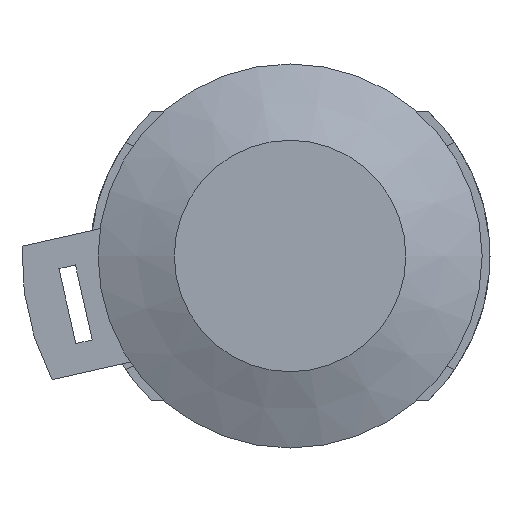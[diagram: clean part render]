
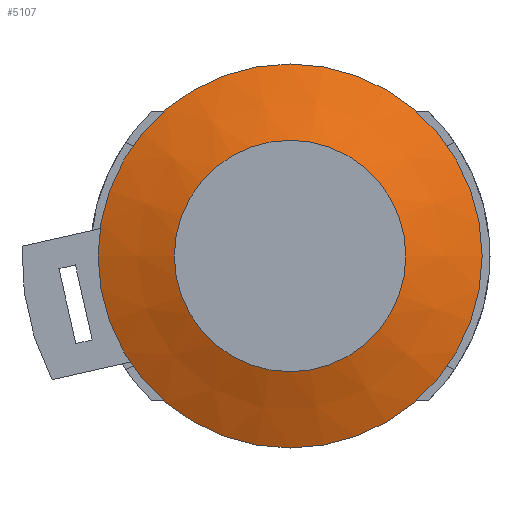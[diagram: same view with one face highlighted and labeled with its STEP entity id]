
A CAD part, left-side view. The second image highlights one B-rep face of the part: STEP entity #5107.
In plain terms, the highlighted conical face has half-angle 67.521 degrees and reference radius 18.25 mm.
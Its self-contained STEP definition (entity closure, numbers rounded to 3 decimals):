
#184 = AXIS2_PLACEMENT_3D ( 'NONE', #850, #859, #860 ) ;
#187 = AXIS2_PLACEMENT_3D ( 'NONE', #861, #869, #870 ) ;
#850 = CARTESIAN_POINT ( 'NONE',  ( -12.5, 0., 0. ) ) ;
#859 = DIRECTION ( 'NONE',  ( 1., 0., 0. ) ) ;
#860 = DIRECTION ( 'NONE',  ( 0., 1., 0. ) ) ;
#861 = CARTESIAN_POINT ( 'NONE',  ( -9.5, 0., 0. ) ) ;
#869 = DIRECTION ( 'NONE',  ( 1., 0., 0. ) ) ;
#870 = DIRECTION ( 'NONE',  ( 0., 1., 0. ) ) ;
#3479 = VERTEX_POINT ( 'NONE', #3480 ) ;
#3480 = CARTESIAN_POINT ( 'NONE',  ( -12.5, 11., 0. ) ) ;
#3485 = VERTEX_POINT ( 'NONE', #3486 ) ;
#3486 = CARTESIAN_POINT ( 'NONE',  ( -9.5, 18.25, 0. ) ) ;
#5107 = ADVANCED_FACE ( 'NONE', ( #8457, #8455 ), #8453, .T. ) ;
#5899 = ORIENTED_EDGE ( 'NONE', *, *, #8881, .T. ) ;
#5900 = ORIENTED_EDGE ( 'NONE', *, *, #8885, .F. ) ;
#7223 = EDGE_LOOP ( 'NONE', ( #5900 ) ) ;
#7229 = EDGE_LOOP ( 'NONE', ( #5899 ) ) ;
#8453 = CONICAL_SURFACE ( 'NONE', #9961, 18.25, 1.178 ) ;
#8455 = FACE_OUTER_BOUND ( 'NONE', #7223, .T. ) ;
#8457 = FACE_BOUND ( 'NONE', #7229, .T. ) ;
#8881 = EDGE_CURVE ( 'NONE', #3479, #3479, #13216, .T. ) ;
#8885 = EDGE_CURVE ( 'NONE', #3485, #3485, #13223, .T. ) ;
#9961 = AXIS2_PLACEMENT_3D ( 'NONE', #11527, #11528, #11505 ) ;
#11505 = DIRECTION ( 'NONE',  ( 0., 1., 0. ) ) ;
#11527 = CARTESIAN_POINT ( 'NONE',  ( -9.5, 0., 0. ) ) ;
#11528 = DIRECTION ( 'NONE',  ( 1., 0., 0. ) ) ;
#13216 = CIRCLE ( 'NONE', #184, 11. ) ;
#13223 = CIRCLE ( 'NONE', #187, 18.25 ) ;
